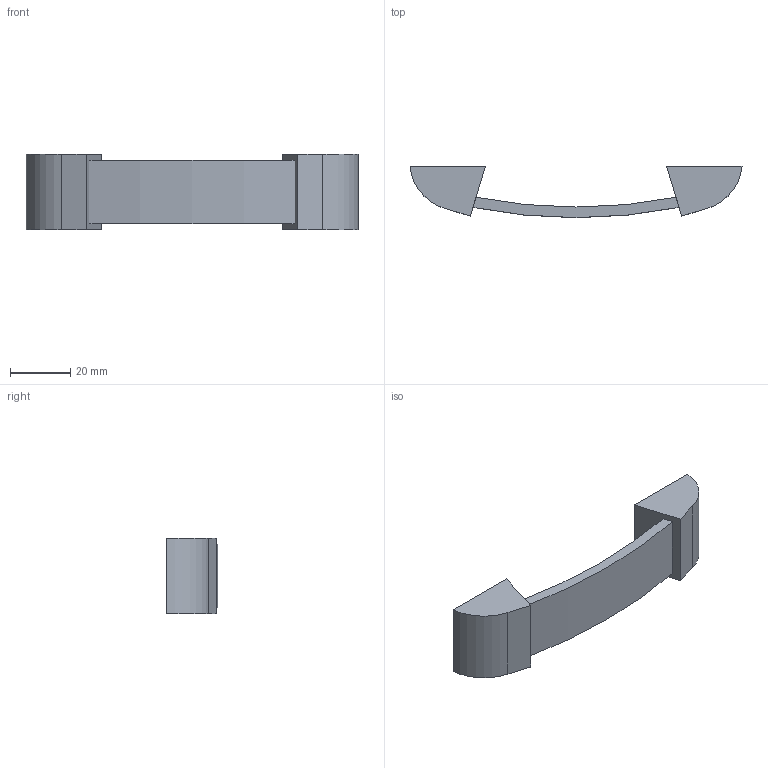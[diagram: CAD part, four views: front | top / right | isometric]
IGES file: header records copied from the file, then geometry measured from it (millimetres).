
Start section: Data from Parasolid IGES Translator 15.0.47, Copyright(c) 2006 Siemens P LM Software. All Rights Reserved.
Global section: file name: 9113453.igs; native system:  By UGS Corp.; preprocessor: XPlus GENERIC/IGES 3.0; author: Noname; organization: Noname; date: 20140122.104634; units: millimetre
Bounding box: 110 x 17 x 25 mm (x, y, z)
Surface area: 8025 mm2 (no closed solid volume)
Topology: 0 solids, 0 shells, 20 faces, 84 edges, 82 vertices
Faces by surface type: extrusion 14, revolution 6
